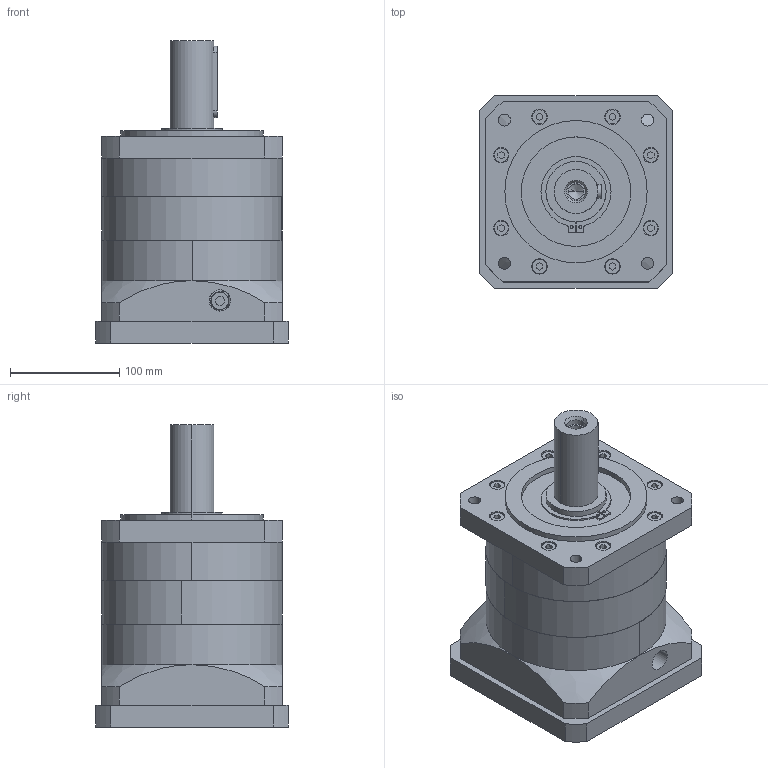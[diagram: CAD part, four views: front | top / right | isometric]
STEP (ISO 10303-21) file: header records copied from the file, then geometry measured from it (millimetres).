
FILE_DESCRIPTION (( 'STEP AP214' ), '1' );
FILE_NAME ('PRF160-L1.STEP', '2020-09-11T02:32:34', ( '微软用户' ), ( '微软中国' ), 'SwSTEP 2.0', 'SolidWorks 2014', '' );
FILE_SCHEMA (( 'AUTOMOTIVE_DESIGN' ));
Length unit declared in the file: millimetre
Products named in the file (16): PLF160 奻屳唳; PLF160 κｳﾝﾈｦ_ﾒｻｼｶﾄﾚｳﾝﾈｦ; GB／T70．1-2000内六角圆柱头螺钉M10×35; PLF160-蟀諉啣_2; PLF160-帣釱; GB／T276-94深沟球轴承6011-2RZ; 邧埴瑩 12x8x65; PRF160-L1
Assembly tree (8 placements, depth 2):
  GB／T70．1-2000内六角圆柱头螺钉M10×35
  PLF160-蟀諉啣_2
  PLF160-帣釱
  GB／T276-94深沟球轴承6011-2RZ
  邧埴瑩 12x8x65
Bounding box: 176 x 176 x 276 mm (x, y, z)
Volume: 3996605 mm3; surface area: 445390.7 mm2
Topology: 8 solids, 16 shells, 598 faces, 1541 edges, 1002 vertices
Faces by surface type: plane 222, cylinder 216, bspline 140, cone 20
Entity records: 30796 total; most frequent: CARTESIAN_POINT 10465, ORIENTED_EDGE 2978, DIRECTION 2632, EDGE_CURVE 1489, AXIS2_PLACEMENT_3D 1065, VERTEX_POINT 976, EDGE_LOOP 701, CIRCLE 611
